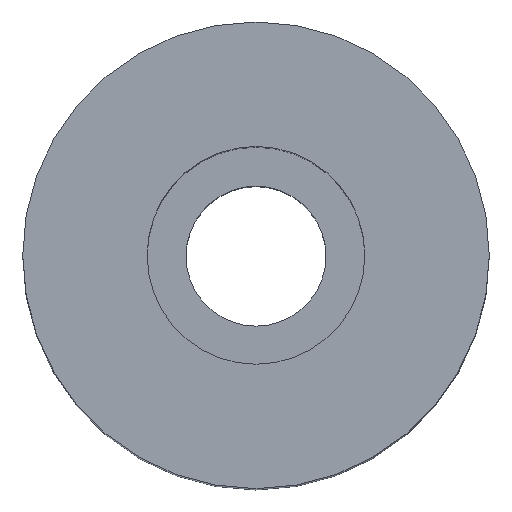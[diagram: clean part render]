
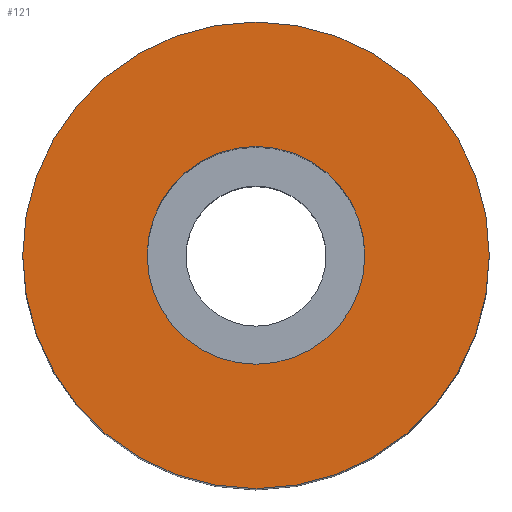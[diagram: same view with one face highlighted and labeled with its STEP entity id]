
A CAD part, top view. The second image highlights one B-rep face of the part: STEP entity #121.
In plain terms, the highlighted planar face has unit normal (0, 0, 1).
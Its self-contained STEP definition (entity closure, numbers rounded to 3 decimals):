
#121=ADVANCED_FACE('',(#133,#134),#130,.T.);
#130=PLANE('',#234);
#133=FACE_BOUND('',#139,.T.);
#134=FACE_BOUND('',#140,.T.);
#139=EDGE_LOOP('',(#151,#152));
#140=EDGE_LOOP('',(#153,#154));
#151=ORIENTED_EDGE('',*,*,#199,.T.);
#152=ORIENTED_EDGE('',*,*,#200,.T.);
#153=ORIENTED_EDGE('',*,*,#201,.F.);
#154=ORIENTED_EDGE('',*,*,#202,.F.);
#187=VERTEX_POINT('',#303);
#188=VERTEX_POINT('',#304);
#189=VERTEX_POINT('',#307);
#190=VERTEX_POINT('',#308);
#199=EDGE_CURVE('',#187,#188,#217,.T.);
#200=EDGE_CURVE('',#188,#187,#218,.T.);
#201=EDGE_CURVE('',#189,#190,#219,.T.);
#202=EDGE_CURVE('',#190,#189,#220,.T.);
#217=CIRCLE('',#230,15.);
#218=CIRCLE('',#231,15.);
#219=CIRCLE('',#232,7.);
#220=CIRCLE('',#233,7.);
#230=AXIS2_PLACEMENT_3D('',#302,#253,#254);
#231=AXIS2_PLACEMENT_3D('',#305,#255,#256);
#232=AXIS2_PLACEMENT_3D('',#306,#257,#258);
#233=AXIS2_PLACEMENT_3D('',#309,#259,#260);
#234=AXIS2_PLACEMENT_3D('',#310,#261,#262);
#253=DIRECTION('',(0.,0.,1.));
#254=DIRECTION('',(0.,1.,0.));
#255=DIRECTION('',(0.,0.,1.));
#256=DIRECTION('',(0.,-1.,0.));
#257=DIRECTION('',(0.,0.,1.));
#258=DIRECTION('',(0.,-1.,0.));
#259=DIRECTION('',(0.,0.,1.));
#260=DIRECTION('',(0.,1.,0.));
#261=DIRECTION('',(0.,0.,1.));
#262=DIRECTION('',(0.,1.,0.));
#302=CARTESIAN_POINT('',(0.,0.,50.));
#303=CARTESIAN_POINT('',(-15.,0.,50.));
#304=CARTESIAN_POINT('',(15.,0.,50.));
#305=CARTESIAN_POINT('',(0.,0.,50.));
#306=CARTESIAN_POINT('',(0.,0.,50.));
#307=CARTESIAN_POINT('',(7.,0.,50.));
#308=CARTESIAN_POINT('',(-7.,0.,50.));
#309=CARTESIAN_POINT('',(0.,0.,50.));
#310=CARTESIAN_POINT('',(0.,0.,50.));
